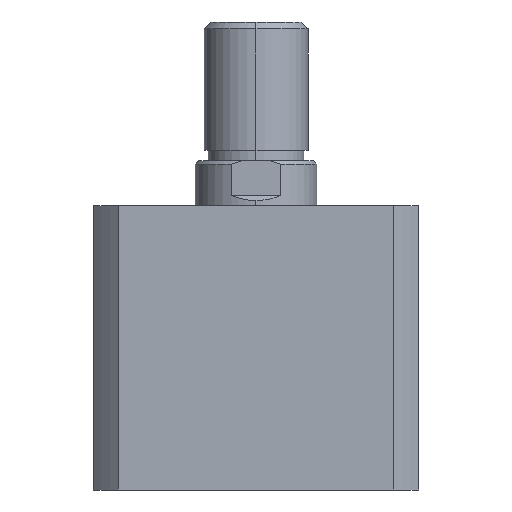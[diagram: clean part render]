
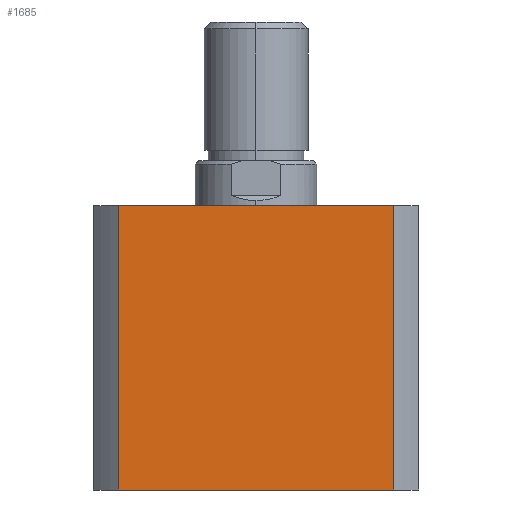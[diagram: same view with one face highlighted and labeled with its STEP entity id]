
A CAD part, left-side view. The second image highlights one B-rep face of the part: STEP entity #1685.
In plain terms, the highlighted planar face has unit normal (-1, 0, 0).
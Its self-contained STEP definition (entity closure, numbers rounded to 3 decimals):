
#1311 = FACE_OUTER_BOUND ( 'NONE', #3628, .T. ) ;
#1534 = VERTEX_POINT ( 'NONE', #3598 ) ;
#1535 = VERTEX_POINT ( 'NONE', #3599 ) ;
#1554 = VERTEX_POINT ( 'NONE', #3618 ) ;
#1555 = VERTEX_POINT ( 'NONE', #3619 ) ;
#1685 = ADVANCED_FACE ( 'NONE', ( #1311 ), #2966, .F. ) ;
#2071 = ORIENTED_EDGE ( 'NONE', *, *, #2321, .T. ) ;
#2072 = ORIENTED_EDGE ( 'NONE', *, *, #2320, .F. ) ;
#2073 = ORIENTED_EDGE ( 'NONE', *, *, #2355, .F. ) ;
#2074 = ORIENTED_EDGE ( 'NONE', *, *, #2322, .T. ) ;
#2320 = EDGE_CURVE ( 'NONE', #1535, #1555, #3854, .T. ) ;
#2321 = EDGE_CURVE ( 'NONE', #1554, #1555, #3859, .T. ) ;
#2322 = EDGE_CURVE ( 'NONE', #1534, #1554, #3858, .T. ) ;
#2355 = EDGE_CURVE ( 'NONE', #1534, #1535, #3904, .T. ) ;
#2961 = CARTESIAN_POINT ( 'NONE',  ( -47., 0., 82. ) ) ;
#2966 = PLANE ( 'NONE',  #3048 ) ;
#2969 = DIRECTION ( 'NONE',  ( 1., 0., 0. ) ) ;
#2970 = DIRECTION ( 'NONE',  ( 0., 0., -1. ) ) ;
#3043 = CARTESIAN_POINT ( 'NONE',  ( -47., 0., 82. ) ) ;
#3048 = AXIS2_PLACEMENT_3D ( 'NONE', #2961, #2969, #2970 ) ;
#3598 = CARTESIAN_POINT ( 'NONE',  ( -47., 39.664, 82. ) ) ;
#3599 = CARTESIAN_POINT ( 'NONE',  ( -47., -39.664, 82. ) ) ;
#3618 = CARTESIAN_POINT ( 'NONE',  ( -47., 39.664, 0. ) ) ;
#3619 = CARTESIAN_POINT ( 'NONE',  ( -47., -39.664, 0. ) ) ;
#3628 = EDGE_LOOP ( 'NONE', ( #2071, #2072, #2073, #2074 ) ) ;
#3854 = LINE ( 'NONE', #4977, #3860 ) ;
#3858 = LINE ( 'NONE', #4976, #3864 ) ;
#3859 = LINE ( 'NONE', #4981, #3862 ) ;
#3860 = VECTOR ( 'NONE', #4973, 1000. ) ;
#3862 = VECTOR ( 'NONE', #4983, 1000. ) ;
#3864 = VECTOR ( 'NONE', #4984, 1000. ) ;
#3904 = LINE ( 'NONE', #3043, #3906 ) ;
#3906 = VECTOR ( 'NONE', #4141, 1000. ) ;
#4141 = DIRECTION ( 'NONE',  ( 0., -1., 0. ) ) ;
#4973 = DIRECTION ( 'NONE',  ( 0., 0., -1. ) ) ;
#4976 = CARTESIAN_POINT ( 'NONE',  ( -47., 39.664, 82. ) ) ;
#4977 = CARTESIAN_POINT ( 'NONE',  ( -47., -39.664, 82. ) ) ;
#4981 = CARTESIAN_POINT ( 'NONE',  ( -47., 0., 0. ) ) ;
#4983 = DIRECTION ( 'NONE',  ( 0., -1., 0. ) ) ;
#4984 = DIRECTION ( 'NONE',  ( 0., 0., -1. ) ) ;
